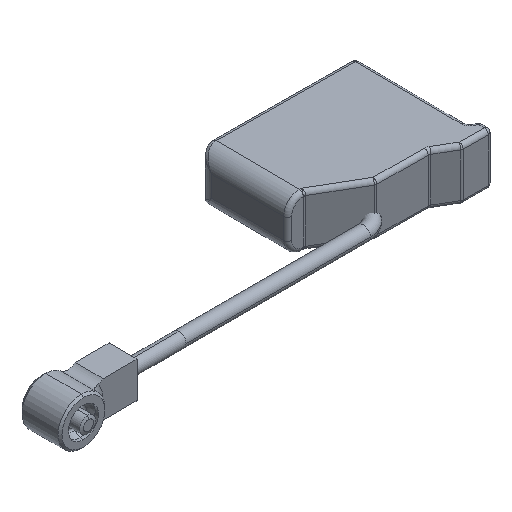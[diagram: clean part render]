
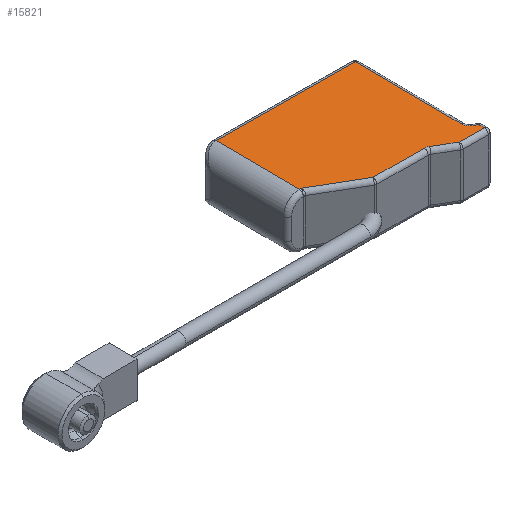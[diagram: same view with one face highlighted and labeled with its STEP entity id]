
A CAD part, isometric view. The second image highlights one B-rep face of the part: STEP entity #15821.
In plain terms, the highlighted planar face has unit normal (0, 0, 1) as drawn and (0, 1, 0) by its records, which use the part's own axes.
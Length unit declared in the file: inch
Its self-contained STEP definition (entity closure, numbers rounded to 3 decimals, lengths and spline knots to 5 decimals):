
#436 = LINE ( 'NONE', #14343, #2314 ) ;
#473 = VERTEX_POINT ( 'NONE', #4930 ) ;
#902 = LINE ( 'NONE', #11024, #4810 ) ;
#1217 = VECTOR ( 'NONE', #4383, 39.37008 ) ;
#1321 = CARTESIAN_POINT ( 'NONE',  ( 0., 0.26, 1.23493 ) ) ;
#1488 = CARTESIAN_POINT ( 'NONE',  ( -0.87172, 0.26, 1.03705 ) ) ;
#2302 = ORIENTED_EDGE ( 'NONE', *, *, #8416, .T. ) ;
#2314 = VECTOR ( 'NONE', #12908, 39.37008 ) ;
#2566 = ORIENTED_EDGE ( 'NONE', *, *, #6983, .T. ) ;
#2580 = ORIENTED_EDGE ( 'NONE', *, *, #10805, .F. ) ;
#2648 = CARTESIAN_POINT ( 'NONE',  ( -0.17009, 0.26, -0.0982 ) ) ;
#2900 = CARTESIAN_POINT ( 'NONE',  ( -0.83708, 0.26, 1.05705 ) ) ;
#3015 = DIRECTION ( 'NONE',  ( 1., 0., 0. ) ) ;
#3115 = CARTESIAN_POINT ( 'NONE',  ( -0.83172, 0.26, 0. ) ) ;
#3201 = ORIENTED_EDGE ( 'NONE', *, *, #12391, .F. ) ;
#4078 = ORIENTED_EDGE ( 'NONE', *, *, #8522, .T. ) ;
#4252 = ORIENTED_EDGE ( 'NONE', *, *, #4338, .T. ) ;
#4338 = EDGE_CURVE ( 'NONE', #6271, #473, #14453, .T. ) ;
#4366 = DIRECTION ( 'NONE',  ( 1., 0., 0. ) ) ;
#4383 = DIRECTION ( 'NONE',  ( 0.5, 0., -0.866 ) ) ;
#4810 = VECTOR ( 'NONE', #3015, 39.37008 ) ;
#4822 = AXIS2_PLACEMENT_3D ( 'NONE', #7016, #13715, #11084 ) ;
#4930 = CARTESIAN_POINT ( 'NONE',  ( -0.28172, 0.26, 1.23493 ) ) ;
#5125 = VERTEX_POINT ( 'NONE', #5231 ) ;
#5196 = CARTESIAN_POINT ( 'NONE',  ( -0.89172, 0.26, 1.15169 ) ) ;
#5231 = CARTESIAN_POINT ( 'NONE',  ( -0.89172, 0.26, 1.27633 ) ) ;
#5357 = EDGE_LOOP ( 'NONE', ( #16140, #2302, #12027, #16247, #3201, #10468, #2566, #9371, #11282, #2580, #4252, #4078 ) ) ;
#5375 = DIRECTION ( 'NONE',  ( 0., 0., -1. ) ) ;
#5536 = DIRECTION ( 'NONE',  ( 0., 1., 0. ) ) ;
#5549 = VERTEX_POINT ( 'NONE', #14905 ) ;
#5970 = VECTOR ( 'NONE', #7152, 39.37008 ) ;
#6271 = VERTEX_POINT ( 'NONE', #11635 ) ;
#6467 = CARTESIAN_POINT ( 'NONE',  ( -0.28172, 0.26, 0. ) ) ;
#6532 = LINE ( 'NONE', #2648, #9877 ) ;
#6594 = CARTESIAN_POINT ( 'NONE',  ( -0.89172, 0.26, 0. ) ) ;
#6707 = LINE ( 'NONE', #16559, #11700 ) ;
#6762 = LINE ( 'NONE', #6594, #16986 ) ;
#6856 = VERTEX_POINT ( 'NONE', #5196 ) ;
#6907 = CARTESIAN_POINT ( 'NONE',  ( -0.70172, 0.26, 0.54493 ) ) ;
#6983 = EDGE_CURVE ( 'NONE', #6856, #5125, #6762, .T. ) ;
#7016 = CARTESIAN_POINT ( 'NONE',  ( -0.81627, 0.26, 1.27493 ) ) ;
#7152 = DIRECTION ( 'NONE',  ( 0., 0., 1. ) ) ;
#7285 = CARTESIAN_POINT ( 'NONE',  ( -0.83172, 0.26, 1.03705 ) ) ;
#7609 = VERTEX_POINT ( 'NONE', #7285 ) ;
#8337 = CARTESIAN_POINT ( 'NONE',  ( -0.09478, 0.26, -0.05472 ) ) ;
#8416 = EDGE_CURVE ( 'NONE', #8980, #16964, #436, .T. ) ;
#8522 = EDGE_CURVE ( 'NONE', #473, #5549, #12479, .T. ) ;
#8556 = DIRECTION ( 'NONE',  ( -0.497, 0., 0.867 ) ) ;
#8967 = CARTESIAN_POINT ( 'NONE',  ( 0., 0.26, 0. ) ) ;
#8980 = VERTEX_POINT ( 'NONE', #6907 ) ;
#9371 = ORIENTED_EDGE ( 'NONE', *, *, #10851, .T. ) ;
#9877 = VECTOR ( 'NONE', #14563, 39.37008 ) ;
#10164 = EDGE_CURVE ( 'NONE', #12441, #6856, #6532, .T. ) ;
#10379 = CARTESIAN_POINT ( 'NONE',  ( -0.83172, 0.26, 0.78226 ) ) ;
#10468 = ORIENTED_EDGE ( 'NONE', *, *, #10164, .T. ) ;
#10680 = AXIS2_PLACEMENT_3D ( 'NONE', #1488, #5536, #5375 ) ;
#10805 = EDGE_CURVE ( 'NONE', #6271, #12555, #12963, .T. ) ;
#10851 = EDGE_CURVE ( 'NONE', #5125, #11070, #902, .T. ) ;
#10935 = EDGE_CURVE ( 'NONE', #5549, #8980, #12524, .T. ) ;
#10953 = DIRECTION ( 'NONE',  ( 0., 0., 1. ) ) ;
#10962 = CIRCLE ( 'NONE', #10680, 0.04 ) ;
#10976 = EDGE_CURVE ( 'NONE', #16964, #15869, #6707, .T. ) ;
#11024 = CARTESIAN_POINT ( 'NONE',  ( 0., 0.26, 1.27633 ) ) ;
#11070 = VERTEX_POINT ( 'NONE', #14068 ) ;
#11084 = DIRECTION ( 'NONE',  ( 0., 0., -1. ) ) ;
#11282 = ORIENTED_EDGE ( 'NONE', *, *, #13570, .T. ) ;
#11324 = CARTESIAN_POINT ( 'NONE',  ( 0., 0.26, 0.54493 ) ) ;
#11543 = VECTOR ( 'NONE', #4366, 39.37008 ) ;
#11635 = CARTESIAN_POINT ( 'NONE',  ( -0.81627, 0.26, 1.23493 ) ) ;
#11700 = VECTOR ( 'NONE', #8556, 39.37008 ) ;
#11891 = DIRECTION ( 'NONE',  ( 0., 0., -1. ) ) ;
#12027 = ORIENTED_EDGE ( 'NONE', *, *, #10976, .T. ) ;
#12391 = EDGE_CURVE ( 'NONE', #12441, #7609, #10962, .T. ) ;
#12441 = VERTEX_POINT ( 'NONE', #2900 ) ;
#12479 = LINE ( 'NONE', #6467, #16664 ) ;
#12524 = LINE ( 'NONE', #11324, #15219 ) ;
#12555 = VERTEX_POINT ( 'NONE', #15143 ) ;
#12605 = DIRECTION ( 'NONE',  ( -1., 0., 0. ) ) ;
#12744 = CARTESIAN_POINT ( 'NONE',  ( -0.70172, 0.26, 0.55556 ) ) ;
#12908 = DIRECTION ( 'NONE',  ( 0., 0., 1. ) ) ;
#12963 = CIRCLE ( 'NONE', #4822, 0.04 ) ;
#13457 = LINE ( 'NONE', #8337, #1217 ) ;
#13570 = EDGE_CURVE ( 'NONE', #11070, #12555, #13457, .T. ) ;
#13715 = DIRECTION ( 'NONE',  ( 0., 1., 0. ) ) ;
#14068 = CARTESIAN_POINT ( 'NONE',  ( -0.86327, 0.26, 1.27633 ) ) ;
#14343 = CARTESIAN_POINT ( 'NONE',  ( -0.70172, 0.26, 0. ) ) ;
#14453 = LINE ( 'NONE', #1321, #11543 ) ;
#14459 = DIRECTION ( 'NONE',  ( 0., -1., 0. ) ) ;
#14563 = DIRECTION ( 'NONE',  ( -0.5, 0., 0.866 ) ) ;
#14747 = LINE ( 'NONE', #3115, #5970 ) ;
#14905 = CARTESIAN_POINT ( 'NONE',  ( -0.28172, 0.26, 0.54493 ) ) ;
#15143 = CARTESIAN_POINT ( 'NONE',  ( -0.85091, 0.26, 1.25493 ) ) ;
#15219 = VECTOR ( 'NONE', #12605, 39.37008 ) ;
#15621 = PLANE ( 'NONE',  #15874 ) ;
#15785 = DIRECTION ( 'NONE',  ( 0., 0., -1. ) ) ;
#15821 = ADVANCED_FACE ( 'NONE', ( #16675 ), #15621, .F. ) ;
#15869 = VERTEX_POINT ( 'NONE', #10379 ) ;
#15874 = AXIS2_PLACEMENT_3D ( 'NONE', #8967, #14459, #15785 ) ;
#16140 = ORIENTED_EDGE ( 'NONE', *, *, #10935, .T. ) ;
#16247 = ORIENTED_EDGE ( 'NONE', *, *, #17228, .T. ) ;
#16559 = CARTESIAN_POINT ( 'NONE',  ( -0.28833, 0.26, -0.16534 ) ) ;
#16664 = VECTOR ( 'NONE', #11891, 39.37008 ) ;
#16675 = FACE_OUTER_BOUND ( 'NONE', #5357, .T. ) ;
#16964 = VERTEX_POINT ( 'NONE', #12744 ) ;
#16986 = VECTOR ( 'NONE', #10953, 39.37008 ) ;
#17228 = EDGE_CURVE ( 'NONE', #15869, #7609, #14747, .T. ) ;
